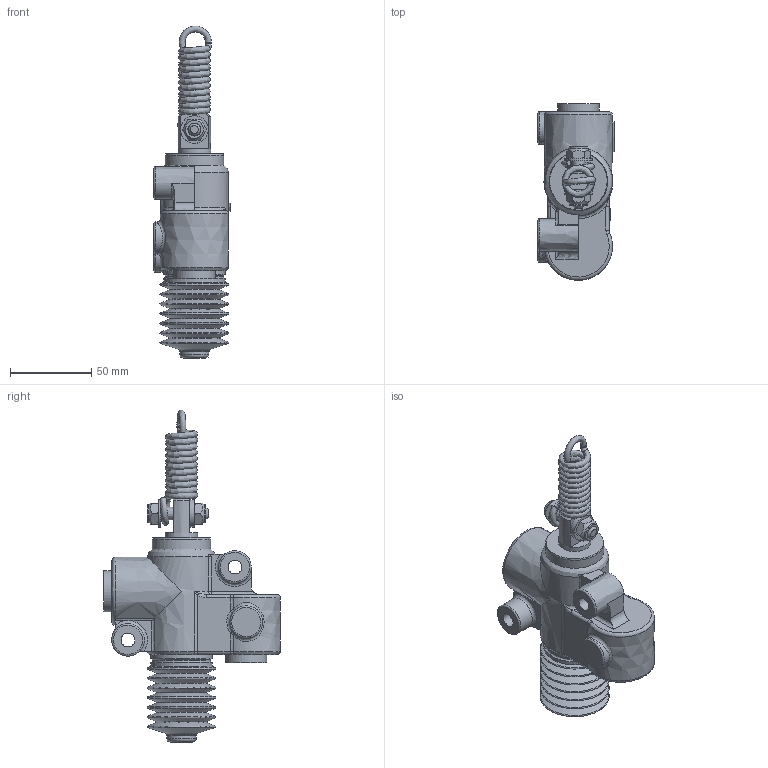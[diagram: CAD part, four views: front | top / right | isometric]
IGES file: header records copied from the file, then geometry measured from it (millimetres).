
Global section: file name: No Iges File Name specified; native system: Autodesk Inventor 2013; preprocessor: AutoDesk Inventor Iges Exporter R2013; author: christian.scardovi; date: 20240927.132914; units: millimetre
Bounding box: 47 x 109 x 204.9 mm (x, y, z)
Volume: 279484.2 mm3; surface area: 49728.7 mm2
Topology: 1 solids, 1 shells, 249 faces, 602 edges, 372 vertices
Faces by surface type: bspline 249
